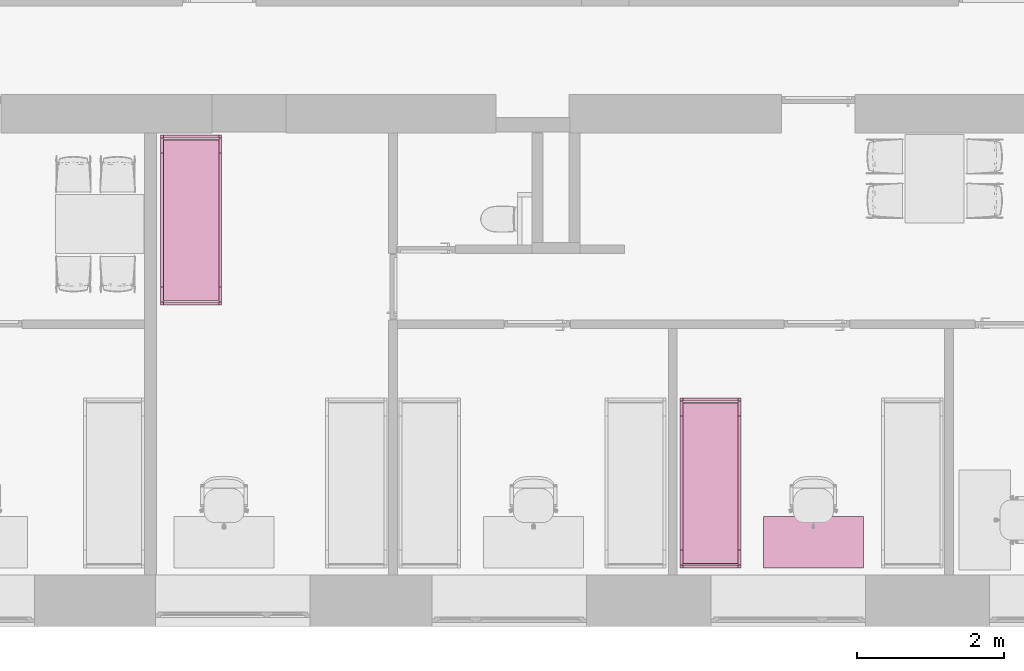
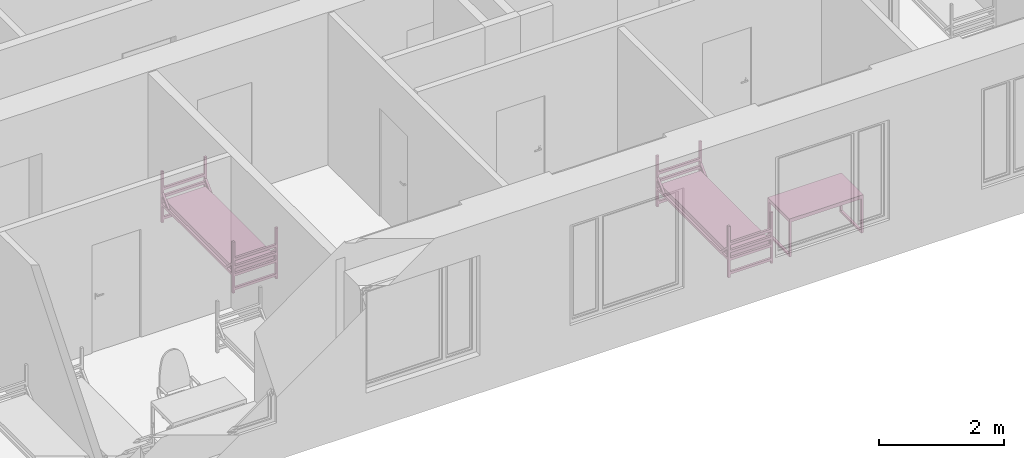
# One storey, part 35 of 48: 3 furnishings.
"""IFC2X3 building model written with IfcOpenShell, lengths in millimetres."""

import ifcopenshell
import ifcopenshell.guid

model = None  # the IFC model being written
_history = None  # IfcOwnerHistory: only IFC2X3 demands one
_inside = {}  # id of a spatial element -> (the spatial element, [elements in it])
_under = {}  # id of a project, library or spatial element -> (it, [spatial elements below it])
_declared = {}  # id of a project -> (the project, [libraries it declares])
_typed = {}  # id of a type object -> (the type object, [elements of that type])
_made_of = {}  # id of a material, layer set ... -> (it, [elements and type objects made of it])


def new_model(schema):
    """Start an empty IFC model of exactly this schema.

    Asked for "IFC4X3", IfcOpenShell would pick the latest addendum, in which some entities
    have other attributes; the version numbers below select the first issue.
    IFC2X3 requires an IfcOwnerHistory on every rooted entity: one is made here for all.
    """
    global model, _history
    if schema == "IFC4X3":
        model = ifcopenshell.file(schema_version=(4, 3, 0, 0))
    else:
        model = ifcopenshell.file(schema=schema)
    _inside.clear()
    _under.clear()
    _declared.clear()
    _typed.clear()
    _made_of.clear()
    _history = None
    if model.schema == "IFC2X3":
        org = make("IfcOrganization", Name="unknown")
        user = make(
            "IfcPersonAndOrganization",
            ThePerson=make("IfcPerson", FamilyName="unknown"),
            TheOrganization=org,
        )
        app = make(
            "IfcApplication",
            ApplicationDeveloper=org,
            Version="unknown",
            ApplicationFullName="unknown",
            ApplicationIdentifier="unknown",
        )
        _history = make(
            "IfcOwnerHistory",
            OwningUser=user,
            OwningApplication=app,
            ChangeAction="ADDED",
            CreationDate=0,
        )
    return model


def make(cls, **values):
    """One entity of the class cls with the attributes given. An attribute that is None is left unset."""
    return model.create_entity(
        cls, **{name: value for name, value in values.items() if value is not None}
    )


def entity(cls, *values):
    """Any entity or typed value of the class cls, its attributes in the order of the schema. None: left unset."""
    e = model.create_entity(cls)
    for i, value in enumerate(values):
        if value is not None:
            e[i] = value
    return e


def rooted(cls, **values):
    """An entity with a GlobalId (a new one), such as an element, a storey or a relation."""
    return make(cls, GlobalId=ifcopenshell.guid.new(), OwnerHistory=_history, **values)


def si_unit(unit_type, name, prefix=None):
    """IfcSIUnit, for example si_unit("LENGTHUNIT", "METRE", prefix="MILLI")."""
    return make("IfcSIUnit", UnitType=unit_type, Prefix=prefix, Name=name)


def converted_unit(unit_type, name, factor, base, dimensions=None, offset=None):
    """IfcConversionBasedUnit, such as the inch: factor (a typed value) times the base unit."""
    return make(
        "IfcConversionBasedUnit"
        if offset is None
        else "IfcConversionBasedUnitWithOffset",
        ConversionOffset=offset,
        Dimensions=None
        if dimensions is None
        else entity("IfcDimensionalExponents", *dimensions),
        UnitType=unit_type,
        Name=name,
        ConversionFactor=make(
            "IfcMeasureWithUnit", ValueComponent=factor, UnitComponent=base
        ),
    )


def derived_unit(unit_type, elements):
    """IfcDerivedUnit: a product of units, each with its exponent."""
    return make(
        "IfcDerivedUnit",
        Elements=[
            make("IfcDerivedUnitElement", Unit=unit, Exponent=power)
            for unit, power in elements
        ],
        UnitType=unit_type,
    )


def assignment(units):
    """IfcUnitAssignment: the units of a project."""
    return None if units is None else make("IfcUnitAssignment", Units=units)


def point(xyz):
    """IfcCartesianPoint."""
    return None if xyz is None else make("IfcCartesianPoint", Coordinates=xyz)


def direction(xyz):
    """IfcDirection."""
    return None if xyz is None else make("IfcDirection", DirectionRatios=xyz)


def frame(location, z_axis=None, x_axis=None):
    """IfcAxis2Placement3D, a coordinate frame: its origin and axes. An axis left out is left unset."""
    return make(
        "IfcAxis2Placement3D",
        Location=point(location),
        Axis=direction(z_axis),
        RefDirection=direction(x_axis),
    )


def frame_2d(location, x_axis=None):
    """IfcAxis2Placement2D, a coordinate frame in the plane: its origin and x axis."""
    return make(
        "IfcAxis2Placement2D", Location=point(location), RefDirection=direction(x_axis)
    )


def origin():
    """The frame at (0, 0, 0) with its axes left unset."""
    return frame((0.0, 0.0, 0.0))


def place(relative_to, where):
    """IfcLocalPlacement: puts the frame where relative to a parent placement (None: the world)."""
    return make(
        "IfcLocalPlacement", PlacementRelTo=relative_to, RelativePlacement=where
    )


def context(
    kind, dimensions, precision=None, world=None, true_north=None, identifier=None
):
    """IfcGeometricRepresentationContext, for example the 3D "Model" context."""
    return make(
        "IfcGeometricRepresentationContext",
        ContextIdentifier=identifier,
        ContextType=kind,
        CoordinateSpaceDimension=dimensions,
        Precision=precision,
        WorldCoordinateSystem=world,
        TrueNorth=true_north,
    )


def subcontext(parent, identifier, kind, view, scale=None):
    """IfcGeometricRepresentationSubContext, for example "Body" below "Model"."""
    return make(
        "IfcGeometricRepresentationSubContext",
        ContextIdentifier=identifier,
        ContextType=kind,
        ParentContext=parent,
        TargetScale=scale,
        TargetView=view,
    )


def project(units=None, contexts=None):
    """IfcProject with its units and contexts."""
    return rooted(
        "IfcProject",
        Name="project",
        RepresentationContexts=contexts,
        UnitsInContext=assignment(units),
    )


def spatial(cls, under=None, at=None, **own):
    """A site, building, storey or space (cls), placed at a placement, below another one or the project."""
    s = rooted(cls, ObjectPlacement=at, **own)
    if under is not None:
        _under.setdefault(under.id(), (under, []))[1].append(s)
    return s


def polyline(points):
    """IfcPolyline through the points."""
    return make("IfcPolyline", Points=[point(p) for p in points])


def circle_curve(where, radius):
    """IfcCircle in the frame where."""
    return make("IfcCircle", Position=where, Radius=radius)


def parameter(value):
    """IfcParameterValue: where a trimmed curve begins or ends, as a parameter of its basis curve."""
    return model.create_entity("IfcParameterValue", value)


def trimmed(basis, trim1, trim2, sense, master):
    """IfcTrimmedCurve: the piece of a basis curve between two trims."""
    return make(
        "IfcTrimmedCurve",
        BasisCurve=basis,
        Trim1=trim1,
        Trim2=trim2,
        SenseAgreement=sense,
        MasterRepresentation=master,
    )


def segment(curve, same_sense, transition):
    """IfcCompositeCurveSegment."""
    return make(
        "IfcCompositeCurveSegment",
        Transition=transition,
        SameSense=same_sense,
        ParentCurve=curve,
    )


def composite_curve(segments, self_intersect=None):
    """IfcCompositeCurve: segments joined end to end."""
    return make("IfcCompositeCurve", Segments=segments, SelfIntersect=self_intersect)


def profile(cls, at=None, kind="AREA", **sizes):
    """A parametric profile (cls). Its sizes go by their IFC names, for example OverallWidth=200.0."""
    return make(cls, ProfileType=kind, Position=at, **sizes)


def rectangle(**sizes):
    """IfcRectangleProfileDef."""
    return profile("IfcRectangleProfileDef", **sizes)


def outline(outer, holes=None, kind="AREA"):
    """IfcArbitraryClosedProfileDef: a profile drawn as a closed curve; with holes, ...WithVoids."""
    if holes is None:
        return make("IfcArbitraryClosedProfileDef", ProfileType=kind, OuterCurve=outer)
    return make(
        "IfcArbitraryProfileDefWithVoids",
        ProfileType=kind,
        OuterCurve=outer,
        InnerCurves=holes,
    )


def extrude(swept, where, along, depth):
    """IfcExtrudedAreaSolid: the profile swept, set in the frame where, extruded along a direction by depth."""
    return make(
        "IfcExtrudedAreaSolid",
        SweptArea=swept,
        Position=where,
        ExtrudedDirection=direction(along),
        Depth=depth,
    )


def faces_of(points, faces, orient=None, outer=None):
    """IfcFace entities. A face is a list of loops; a loop is a list of indices into points, from 0.

    orient and outer hold one flag for each loop. By default every Orientation is true, the
    first loop of a face is its IfcFaceOuterBound and the others are IfcFaceBound.
    """
    made = []
    for i, loops in enumerate(faces):
        bounds = []
        for j, loop in enumerate(loops):
            is_outer = j == 0 if outer is None else outer[i][j]
            bounds.append(
                make(
                    "IfcFaceOuterBound" if is_outer else "IfcFaceBound",
                    Bound=make("IfcPolyLoop", Polygon=[points[k] for k in loop]),
                    Orientation=True if orient is None else orient[i][j],
                )
            )
        made.append(make("IfcFace", Bounds=bounds))
    return made


def faceted_brep(points, faces, orient=None, outer=None, voids=None):
    """IfcFacetedBrep: a solid bounded by flat faces; with voids (closed shells), ...WithVoids."""
    shared = [point(p) for p in points]
    hull = make("IfcClosedShell", CfsFaces=faces_of(shared, faces, orient, outer))
    if voids is None:
        return make("IfcFacetedBrep", Outer=hull)
    return make(
        "IfcFacetedBrepWithVoids",
        Outer=hull,
        Voids=[
            make(cls, CfsFaces=faces_of(shared, fs, o, b)) for cls, fs, o, b in voids
        ],
    )


def shape(context_of_items, identifier, shape_type, items):
    """IfcShapeRepresentation: the items that make up one representation, for example the "Body"."""
    return make(
        "IfcShapeRepresentation",
        ContextOfItems=context_of_items,
        RepresentationIdentifier=identifier,
        RepresentationType=shape_type,
        Items=items,
    )


def source(mapping_origin, context_of_items, identifier, shape_type, items):
    """IfcRepresentationMap: a shape defined once, which mapped items show again and again."""
    return make(
        "IfcRepresentationMap",
        MappingOrigin=mapping_origin,
        MappedRepresentation=shape(context_of_items, identifier, shape_type, items),
    )


def transform(
    local_origin,
    x_axis=None,
    y_axis=None,
    z_axis=None,
    scale=None,
    scale2=None,
    scale3=None,
    uniform=True,
):
    """IfcCartesianTransformationOperator3D, or its non-uniform kind. x_axis, y_axis, z_axis: its Axis1, 2, 3."""
    if uniform:
        return make(
            "IfcCartesianTransformationOperator3D",
            Axis1=direction(x_axis),
            Axis2=direction(y_axis),
            LocalOrigin=point(local_origin),
            Scale=scale,
            Axis3=direction(z_axis),
        )
    return make(
        "IfcCartesianTransformationOperator3DnonUniform",
        Axis1=direction(x_axis),
        Axis2=direction(y_axis),
        LocalOrigin=point(local_origin),
        Scale=scale,
        Axis3=direction(z_axis),
        Scale2=scale2,
        Scale3=scale3,
    )


def mapped(mapping_source, mapping_target):
    """IfcMappedItem: shows the shape of a source again, moved by a transform."""
    return make(
        "IfcMappedItem", MappingSource=mapping_source, MappingTarget=mapping_target
    )


def material(Name=None, Category=None):
    """IfcMaterial."""
    return make("IfcMaterial", Name=Name, Category=Category)


def material_list(materials):
    """IfcMaterialList."""
    return make("IfcMaterialList", Materials=materials)


def made_of(thing, what):
    """Note that an element or type object is made of a material, layer set ...; save() writes the relation."""
    if what is not None:
        _made_of.setdefault(what.id(), (what, []))[1].append(thing)
    return thing


def type_object(cls, material=None, **own):
    """A type object (cls), such as IfcWallType, which elements share."""
    return made_of(rooted(cls, **own), material)


def type_shapes(of_type, sources):
    """Give a type object the sources (RepresentationMaps) that its elements show as mapped items."""
    of_type.RepresentationMaps = sources


def element(
    cls,
    number,
    at=None,
    inside=None,
    cuts=None,
    type_object=None,
    material=None,
    context=None,
    identifier="Body",
    shape_type=None,
    held_by="IfcProductDefinitionShape",
    body=None,
    shapes=None,
    **own,
):
    """One element of the class cls, such as IfcWall. Its Tag is "e" and its number.

    at: its placement. inside: the storey or other place that contains it. cuts: it is an
    opening in that element (IfcRelVoidsElement). A single representation is given by context,
    identifier, shape_type and body (its items); several are given by shapes. held_by: the class
    of the entity that holds the representations. save() writes the other relations.
    """
    e = rooted(cls, Tag="e%d" % number, ObjectPlacement=at, **own)
    if body is not None:
        shapes = [shape(context, identifier, shape_type, body)]
    if shapes is not None:
        e.Representation = make(held_by, Representations=shapes)
    if inside is not None:
        _inside.setdefault(inside.id(), (inside, []))[1].append(e)
    if cuts is not None:
        rooted(
            "IfcRelVoidsElement", RelatingBuildingElement=cuts, RelatedOpeningElement=e
        )
    if type_object is not None:
        _typed.setdefault(type_object.id(), (type_object, []))[1].append(e)
    return made_of(e, material)


def aggregate(whole, parts):
    """IfcRelAggregates: a whole, such as a stair, and the parts it consists of."""
    return rooted("IfcRelAggregates", RelatingObject=whole, RelatedObjects=parts)


def save(model, path):
    """Write the relations noted so far, then the file.

    IfcRelAggregates (storeys below a building ...), IfcRelContainedInSpatialStructure (elements
    in a storey), IfcRelDefinesByType, IfcRelAssociatesMaterial and IfcRelDeclares: one each for
    every whole, place, type object, material and project.
    """
    for whole, parts in _under.values():
        aggregate(whole, parts)
    for where, things in _inside.values():
        rooted(
            "IfcRelContainedInSpatialStructure",
            RelatedElements=things,
            RelatingStructure=where,
        )
    for kind, things in _typed.values():
        rooted("IfcRelDefinesByType", RelatedObjects=things, RelatingType=kind)
    for what, things in _made_of.values():
        rooted("IfcRelAssociatesMaterial", RelatedObjects=things, RelatingMaterial=what)
    for by, libraries in _declared.values():
        rooted("IfcRelDeclares", RelatingContext=by, RelatedDefinitions=libraries)
    model.write(path)


model = new_model("IFC2X3")

# Units and contexts
model_context = context("Model", 3, precision=0.01, world=origin(), true_north=direction((6.12303176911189e-17, 1.0)))
body_context = subcontext(model_context, "Body", "Model", "MODEL_VIEW")
ifc_project = project(units=[si_unit("LENGTHUNIT", "METRE", prefix="MILLI"), si_unit("AREAUNIT", "SQUARE_METRE"), si_unit("VOLUMEUNIT", "CUBIC_METRE"), converted_unit("PLANEANGLEUNIT", "DEGREE", entity("IfcRatioMeasure", 0.0174532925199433), si_unit("PLANEANGLEUNIT", "RADIAN"), dimensions=[0, 0, 0, 0, 0, 0, 0]), si_unit("MASSUNIT", "GRAM", prefix="KILO"), derived_unit("MASSDENSITYUNIT", [(si_unit("MASSUNIT", "GRAM", prefix="KILO"), 1), (si_unit("LENGTHUNIT", "METRE"), -3)]), si_unit("TIMEUNIT", "SECOND"), si_unit("FREQUENCYUNIT", "HERTZ"), si_unit("THERMODYNAMICTEMPERATUREUNIT", "DEGREE_CELSIUS"), derived_unit("THERMALTRANSMITTANCEUNIT", [(si_unit("MASSUNIT", "GRAM", prefix="KILO"), 1), (si_unit("THERMODYNAMICTEMPERATUREUNIT", "KELVIN"), -1), (si_unit("TIMEUNIT", "SECOND"), -3)]), derived_unit("VOLUMETRICFLOWRATEUNIT", [(si_unit("LENGTHUNIT", "METRE"), 3), (si_unit("TIMEUNIT", "SECOND"), -1)]), si_unit("ELECTRICCURRENTUNIT", "AMPERE"), si_unit("ELECTRICVOLTAGEUNIT", "VOLT"), si_unit("POWERUNIT", "WATT"), si_unit("FORCEUNIT", "NEWTON", prefix="KILO"), si_unit("ILLUMINANCEUNIT", "LUX"), si_unit("LUMINOUSFLUXUNIT", "LUMEN"), si_unit("LUMINOUSINTENSITYUNIT", "CANDELA"), derived_unit("USERDEFINED", [(si_unit("MASSUNIT", "GRAM", prefix="KILO"), -1), (si_unit("LENGTHUNIT", "METRE"), -2), (si_unit("TIMEUNIT", "SECOND"), 3), (si_unit("LUMINOUSFLUXUNIT", "LUMEN"), 1)]), derived_unit("LINEARVELOCITYUNIT", [(si_unit("LENGTHUNIT", "METRE"), 1), (si_unit("TIMEUNIT", "SECOND"), -1)]), si_unit("PRESSUREUNIT", "PASCAL"), derived_unit("USERDEFINED", [(si_unit("LENGTHUNIT", "METRE"), -2), (si_unit("MASSUNIT", "GRAM", prefix="KILO"), 1), (si_unit("TIMEUNIT", "SECOND"), -2)]), derived_unit("LINEARFORCEUNIT", [(si_unit("MASSUNIT", "GRAM", prefix="KILO"), 1), (si_unit("LENGTHUNIT", "METRE"), 1), (si_unit("TIMEUNIT", "SECOND"), -2), (si_unit("LENGTHUNIT", "METRE"), -1)]), derived_unit("PLANARFORCEUNIT", [(si_unit("MASSUNIT", "GRAM", prefix="KILO"), 1), (si_unit("LENGTHUNIT", "METRE"), 1), (si_unit("TIMEUNIT", "SECOND"), -2), (si_unit("LENGTHUNIT", "METRE"), -2)])], contexts=[model_context])

# Site, building, storey, space
site_placement = place(None, origin())
site = spatial("IfcSite", under=ifc_project, at=site_placement, Name="Default", CompositionType="ELEMENT")
building_placement = place(site_placement, origin())
building = spatial("IfcBuilding", under=site, at=building_placement, Name="SMA ARH", CompositionType="ELEMENT")
storey_placement = place(building_placement, frame((0.0, 0.0, 3300.0)))
storey = spatial("IfcBuildingStorey", under=building, at=storey_placement, Name="2 Korrus", CompositionType="ELEMENT", Elevation=3299.99999999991)
space_1_placement = place(storey_placement, origin())
space_1 = spatial("IfcSpace", under=storey, at=space_1_placement, Name="2-7", CompositionType="ELEMENT", InteriorOrExteriorSpace="INTERNAL")

# Furnishing
ifc_material_1 = material(Name="Madrats")
furniture_type_1 = type_object("IfcFurnitureType", Name="Kasarmu voodi ühekordne 2308x830:Kasarmu voodi ühekordne 2308x830", material=ifc_material_1)
shared_shape_1 = source(origin(), body_context, "Body", "SweptSolid", [
    extrude(rectangle(XDim=39.9999999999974, YDim=750.000000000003, at=frame_2d((-1.35003119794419e-13, -2.8421709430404e-14), x_axis=(1.0, 0.0))), frame((1.68638457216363, -1226.7969571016, 55.0), z_axis=(0.0, 0.0, 1.0), x_axis=(0.0, -1.0, 0.0)), (0.0, 0.0, 1.0), 49.9999999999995),
    extrude(rectangle(XDim=39.9999999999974, YDim=750.000000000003, at=frame_2d((-1.35003119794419e-13, -2.8421709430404e-14), x_axis=(1.0, 0.0))), frame((1.68638457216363, -1226.7969571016, 325.0), z_axis=(0.0, 0.0, 1.0), x_axis=(0.0, -1.0, 0.0)), (0.0, 0.0, 1.0), 49.9999999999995),
    extrude(rectangle(XDim=39.9999999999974, YDim=750.000000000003, at=frame_2d((-1.35003119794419e-13, -2.8421709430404e-14), x_axis=(1.0, 0.0))), frame((1.68638457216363, -1226.7969571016, 475.0), z_axis=(0.0, 0.0, 1.0), x_axis=(0.0, -1.0, 0.0)), (0.0, 0.0, 1.0), 49.9999999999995),
    extrude(rectangle(XDim=39.9999999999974, YDim=750.000000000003, at=frame_2d((-1.35003119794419e-13, -2.8421709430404e-14), x_axis=(1.0, 0.0))), frame((1.68638457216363, -1226.7969571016, 625.0), z_axis=(0.0, 0.0, 1.0), x_axis=(0.0, -1.0, 0.0)), (0.0, 0.0, 1.0), 50.0000000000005),
    extrude(rectangle(XDim=39.9999999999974, YDim=750.000000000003, at=frame_2d((1.35003119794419e-13, -2.8421709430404e-14), x_axis=(1.0, 0.0))), frame((1.68638457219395, 1041.2030428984, 55.0), z_axis=(0.0, 0.0, 1.0), x_axis=(0.0, -1.0, 0.0)), (0.0, 0.0, 1.0), 50.0000000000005),
    extrude(rectangle(XDim=39.9999999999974, YDim=750.000000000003, at=frame_2d((1.35003119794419e-13, -2.8421709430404e-14), x_axis=(1.0, 0.0))), frame((1.68638457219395, 1041.2030428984, 325.0), z_axis=(0.0, 0.0, 1.0), x_axis=(0.0, -1.0, 0.0)), (0.0, 0.0, 1.0), 50.0000000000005),
    extrude(rectangle(XDim=39.9999999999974, YDim=750.000000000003, at=frame_2d((1.35003119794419e-13, -2.8421709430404e-14), x_axis=(1.0, 0.0))), frame((1.68638457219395, 1041.2030428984, 475.0), z_axis=(0.0, 0.0, 1.0), x_axis=(0.0, -1.0, 0.0)), (0.0, 0.0, 1.0), 50.0000000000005),
    extrude(rectangle(XDim=39.9999999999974, YDim=750.000000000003, at=frame_2d((1.35003119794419e-13, -2.8421709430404e-14), x_axis=(1.0, 0.0))), frame((1.68638457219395, 1041.2030428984, 625.0), z_axis=(0.0, 0.0, 1.0), x_axis=(0.0, -1.0, 0.0)), (0.0, 0.0, 1.0), 49.9999999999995),
    extrude(outline(composite_curve([segment(trimmed(circle_curve(frame_2d((1085.0, -40.0), x_axis=(1.0, 0.0)), 10.0), [parameter(270.0)], [parameter(0.0)], True, "PARAMETER"), True, "CONTINUOUS"), segment(polyline([(1095.0, -40.0), (1095.0, 40.0)]), True, "CONTINUOUS"), segment(trimmed(circle_curve(frame_2d((1085.0, 40.0), x_axis=(1.0, 0.0)), 10.0), [parameter(0.0)], [parameter(90.0000000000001)], True, "PARAMETER"), True, "CONTINUOUS"), segment(polyline([(1085.0, 50.0), (-1085.0, 50.0)]), True, "CONTINUOUS"), segment(trimmed(circle_curve(frame_2d((-1085.0, 40.0), x_axis=(1.0, 0.0)), 10.0), [parameter(90.0000000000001)], [parameter(180.0)], True, "PARAMETER"), True, "CONTINUOUS"), segment(polyline([(-1095.0, 40.0), (-1095.0, -40.0)]), True, "CONTINUOUS"), segment(trimmed(circle_curve(frame_2d((-1085.0, -40.0), x_axis=(1.0, 0.0)), 10.0), [parameter(180.0)], [parameter(270.0)], True, "PARAMETER"), True, "CONTINUOUS"), segment(polyline([(-1085.0, -50.0), (1085.0, -50.0)]), True, "CONTINUOUS")], self_intersect=False)), frame((-373.313615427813, -92.7969571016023, 405.0), z_axis=(1.0, 0.0, 0.0), x_axis=(0.0, -1.0, 0.0)), (0.0, 0.0, 1.0), 750.000000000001),
    extrude(outline(polyline([(-1114.0, -100.0), (1114.0, -100.0), (1114.0, -50.0), (961.59199141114, -50.0), (1114.0, 100.0), (1114.0, 150.0), (910.789321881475, -50.0), (-910.789321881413, -50.0), (-1114.0, 150.0), (-1114.0, 100.0), (-961.591991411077, -50.0), (-1114.0, -50.0), (-1114.0, -100.0)])), frame((-413.313615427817, -92.7969571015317, 430.0), z_axis=(1.0, 0.0, 0.0), x_axis=(0.0, 1.0, 0.0)), (0.0, 0.0, 1.0), 39.9999999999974),
    extrude(outline(polyline([(-1114.0, -100.0), (1114.0, -100.0), (1114.0, -50.0), (961.591991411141, -50.0), (1114.0, 100.0), (1114.0, 150.0), (910.789321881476, -50.0), (-910.789321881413, -50.0), (-1114.0, 150.0), (-1114.0, 100.0), (-961.591991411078, -50.0), (-1114.0, -50.0), (-1114.0, -100.0)])), frame((376.686384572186, -92.796957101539, 430.0), z_axis=(1.0, 0.0, 0.0), x_axis=(0.0, 1.0, 0.0)), (0.0, 0.0, 1.0), 39.9999999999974),
    extrude(rectangle(XDim=39.9999999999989, YDim=39.9999999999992, at=frame_2d((-6.75015598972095e-14, 0.0), x_axis=(1.0, 0.0))), frame((396.686384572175, -1226.79695710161, 0.0), z_axis=(0.0, 0.0, 1.0), x_axis=(0.0, 1.0, 0.0)), (0.0, 0.0, 1.0), 995.0),
    extrude(rectangle(XDim=39.9999999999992, YDim=39.9999999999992, at=frame_2d((-1.35003119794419e-13, 0.0), x_axis=(1.0, 0.0))), frame((396.686384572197, 1041.20304289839, 0.0), z_axis=(0.0, 0.0, 1.0), x_axis=(0.0, 1.0, 0.0)), (0.0, 0.0, 1.0), 995.0),
    extrude(rectangle(XDim=40.0000000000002, YDim=39.9999999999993, at=frame_2d((-1.35003119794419e-13, 0.0), x_axis=(1.0, 0.0))), frame((-393.313615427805, 1041.2030428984, 0.0), z_axis=(0.0, 0.0, 1.0), x_axis=(0.0, 1.0, 0.0)), (0.0, 0.0, 1.0), 995.0),
    extrude(rectangle(XDim=39.9999999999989, YDim=39.9999999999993, at=frame_2d((-6.75015598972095e-14, 0.0), x_axis=(1.0, 0.0))), frame((-393.313615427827, -1226.7969571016, 0.0), z_axis=(0.0, 0.0, 1.0), x_axis=(0.0, 1.0, 0.0)), (0.0, 0.0, 1.0), 995.0),
])
type_shapes(furniture_type_1, [shared_shape_1])
furnishing_1_placement = place(space_1_placement, frame((23839.3136154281, 1336.79695710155, 0.0)))
element("IfcFurnishingElement", 1, at=furnishing_1_placement, inside=space_1, type_object=furniture_type_1, material=ifc_material_1, Name="Kasarmu voodi ühekordne 2308x830:Kasarmu voodi ühekordne 2308x830", ObjectType="Kasarmu voodi ühekordne 2308x830:Kasarmu voodi ühekordne 2308x830", context=body_context, shape_type="MappedRepresentation", body=[
    mapped(shared_shape_1, transform((0.0, 0.0, 0.0), scale=1.0)),
])

# Space
space_2_placement = place(storey_placement, origin())
space_2 = spatial("IfcSpace", under=storey, at=space_2_placement, Name="2-9", CompositionType="ELEMENT", InteriorOrExteriorSpace="INTERNAL")

# Furnishings
furnishing_2_placement = place(space_2_placement, frame((16791.1863845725, 4723.20304289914, 0.0), z_axis=(0.0, 0.0, 1.0), x_axis=(-1.0, 0.0, 0.0)))
element("IfcFurnishingElement", 2, at=furnishing_2_placement, inside=space_2, type_object=furniture_type_1, material=ifc_material_1, Name="Kasarmu voodi ühekordne 2308x830:Kasarmu voodi ühekordne 2308x830", ObjectType="Kasarmu voodi ühekordne 2308x830:Kasarmu voodi ühekordne 2308x830", context=body_context, shape_type="MappedRepresentation", body=[
    mapped(shared_shape_1, transform((0.0, 0.0, 0.0), scale=1.0)),
])
ifc_material_2 = material(Name="<Unnamed>")
ifc_material_list = material_list([ifc_material_2, ifc_material_2])
furniture_type_2 = type_object("IfcFurnitureType", Name="kirjutuslaud 1360x700mm:kirjutuslaud 1360x700mm", material=ifc_material_list)
shared_shape_2 = source(origin(), body_context, "Body", "Brep", [
    faceted_brep([(680.0, -350.0, 720.0), (680.0, 350.0, 720.0), (680.0, 350.0, 750.0), (680.0, -350.0, 750.0), (-680.0, -350.0, 720.0), (-680.0, -350.0, 750.0), (-680.0, 350.0, 750.0), (-680.0, 350.0, 720.0)], [[[0, 1, 2, 3]], [[4, 5, 6, 7]], [[1, 0, 4, 7]], [[2, 1, 7, 6]], [[3, 2, 6, 5]], [[0, 3, 5, 4]]]),
    faceted_brep([(-640.0, -310.0, 680.0), (-640.0, 310.0, 680.0), (-640.0, 310.0, 720.0), (-640.0, -310.0, 720.0), (-680.0, -350.0, 720.0), (-680.0, 350.0, 720.0), (-680.0, 350.0, 10.0), (-680.0, -350.0, 10.0), (-680.0, 310.0, 680.0), (-680.0, -310.0, 680.0), (-680.0, -310.0, 50.0), (-680.0, 310.0, 50.0), (-640.0, -350.0, 10.0), (-640.0, -350.0, 680.0), (640.0, -350.0, 680.0), (640.0, -350.0, 10.0), (680.0, -350.0, 10.0), (680.0, -350.0, 720.0), (-640.0, 350.0, 10.0), (680.0, 350.0, 720.0), (680.0, 350.0, 10.0), (640.0, 350.0, 10.0), (640.0, 350.0, 680.0), (-640.0, 350.0, 680.0), (640.0, 310.0, 720.0), (640.0, -310.0, 720.0), (-640.0, 310.0, 50.0), (-640.0, -310.0, 50.0), (640.0, -310.0, 680.0), (640.0, 310.0, 680.0), (680.0, 310.0, 680.0), (680.0, 310.0, 50.0), (680.0, -310.0, 50.0), (680.0, -310.0, 680.0), (640.0, -310.0, 50.0), (640.0, 310.0, 50.0)], [[[0, 1, 2, 3]], [[4, 5, 6, 7], [8, 9, 10, 11]], [[4, 7, 12, 13, 14, 15, 16, 17]], [[18, 12, 7, 6]], [[6, 5, 19, 20, 21, 22, 23, 18]], [[19, 5, 4, 17], [2, 24, 25, 3]], [[26, 1, 8, 11]], [[27, 26, 11, 10]], [[0, 27, 10, 9]], [[1, 0, 9, 8]], [[14, 13, 0, 28]], [[24, 2, 1, 29]], [[3, 25, 28, 0]], [[17, 16, 20, 19], [30, 31, 32, 33]], [[21, 15, 14, 28, 34, 35, 29, 22]], [[20, 16, 15, 21]], [[31, 30, 29, 35]], [[32, 31, 35, 34]], [[33, 32, 34, 28]], [[30, 33, 28, 29]], [[29, 28, 25, 24]], [[29, 1, 23, 22]], [[12, 18, 23, 1, 26, 27, 0, 13]]]),
    faceted_brep([(-663.729456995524, -270.466136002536, 0.0), (-659.847171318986, -269.955023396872, 0.0), (-655.964885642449, -270.466136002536, 0.0), (-652.347171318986, -271.964642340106, 0.0), (-649.240569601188, -274.348421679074, 0.0), (-646.85679026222, -277.455023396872, 0.0), (-645.35828392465, -281.072737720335, 0.0), (-644.847171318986, -284.955023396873, 0.0), (-645.35828392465, -288.83730907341, 0.0), (-646.85679026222, -292.455023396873, 0.0), (-649.240569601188, -295.561625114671, 0.0), (-652.347171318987, -297.945404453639, 0.0), (-655.964885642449, -299.443910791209, 0.0), (-659.847171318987, -299.955023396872, 0.0), (-663.729456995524, -299.443910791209, 0.0), (-667.347171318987, -297.945404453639, 0.0), (-670.453773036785, -295.561625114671, 0.0), (-672.837552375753, -292.455023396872, 0.0), (-674.336058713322, -288.83730907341, 0.0), (-674.847171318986, -284.955023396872, 0.0), (-674.336058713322, -281.072737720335, 0.0), (-672.837552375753, -277.455023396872, 0.0), (-670.453773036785, -274.348421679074, 0.0), (-667.347171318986, -271.964642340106, 0.0), (-655.964885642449, -299.443910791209, 10.0), (-652.347171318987, -297.945404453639, 10.0), (-649.240569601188, -295.561625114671, 10.0), (-646.85679026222, -292.455023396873, 10.0), (-645.35828392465, -288.83730907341, 10.0), (-644.847171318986, -284.955023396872, 10.0), (-645.35828392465, -281.072737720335, 10.0), (-646.85679026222, -277.455023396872, 10.0), (-649.240569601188, -274.348421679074, 10.0), (-652.347171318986, -271.964642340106, 10.0), (-655.964885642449, -270.466136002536, 10.0), (-659.847171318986, -269.955023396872, 10.0), (-663.729456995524, -270.466136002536, 10.0), (-667.347171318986, -271.964642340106, 10.0), (-670.453773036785, -274.348421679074, 10.0), (-672.837552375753, -277.455023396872, 10.0), (-674.336058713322, -281.072737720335, 10.0), (-674.847171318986, -284.955023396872, 10.0), (-674.336058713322, -288.83730907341, 10.0), (-672.837552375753, -292.455023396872, 10.0), (-670.453773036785, -295.561625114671, 10.0), (-667.347171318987, -297.945404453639, 10.0), (-663.729456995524, -299.443910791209, 10.0), (-659.847171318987, -299.955023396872, 10.0)], [[[0, 1, 2, 3, 4, 5, 6, 7, 8, 9, 10, 11, 12, 13, 14, 15, 16, 17, 18, 19, 20, 21, 22, 23]], [[24, 25, 26, 27, 28, 29, 30, 31, 32, 33, 34, 35, 36, 37, 38, 39, 40, 41, 42, 43, 44, 45, 46, 47]], [[18, 42, 41, 19]], [[17, 43, 42, 18]], [[45, 44, 16, 15]], [[17, 16, 44, 43]], [[46, 45, 15, 14]], [[47, 46, 14, 13]], [[12, 24, 47, 13]], [[11, 25, 24, 12]], [[27, 26, 10, 9]], [[11, 10, 26, 25]], [[28, 27, 9, 8]], [[29, 28, 8, 7]], [[6, 30, 29, 7]], [[5, 31, 30, 6]], [[33, 32, 4, 3]], [[5, 4, 32, 31]], [[34, 33, 3, 2]], [[35, 34, 2, 1]], [[0, 36, 35, 1]], [[23, 37, 36, 0]], [[39, 38, 22, 21]], [[23, 22, 38, 37]], [[40, 39, 21, 20]], [[41, 40, 20, 19]]]),
    faceted_brep([(-655.964885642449, 270.466136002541, 10.0), (-652.347171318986, 271.964642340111, 10.0), (-649.240569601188, 274.348421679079, 10.0), (-646.85679026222, 277.455023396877, 10.0), (-645.35828392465, 281.07273772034, 10.0), (-644.847171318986, 284.955023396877, 10.0), (-645.35828392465, 288.837309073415, 10.0), (-646.85679026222, 292.455023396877, 10.0), (-649.240569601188, 295.561625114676, 10.0), (-652.347171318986, 297.945404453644, 10.0), (-655.964885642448, 299.443910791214, 10.0), (-659.847171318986, 299.955023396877, 10.0), (-663.729456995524, 299.443910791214, 10.0), (-667.347171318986, 297.945404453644, 10.0), (-670.453773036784, 295.561625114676, 10.0), (-672.837552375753, 292.455023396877, 10.0), (-674.336058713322, 288.837309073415, 10.0), (-674.847171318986, 284.955023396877, 10.0), (-674.336058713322, 281.07273772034, 10.0), (-672.837552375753, 277.455023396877, 10.0), (-670.453773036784, 274.348421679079, 10.0), (-667.347171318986, 271.964642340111, 10.0), (-663.729456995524, 270.466136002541, 10.0), (-659.847171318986, 269.955023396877, 10.0), (-655.964885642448, 299.443910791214, 0.0), (-652.347171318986, 297.945404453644, 0.0), (-649.240569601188, 295.561625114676, 0.0), (-646.85679026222, 292.455023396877, 0.0), (-645.35828392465, 288.837309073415, 0.0), (-644.847171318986, 284.955023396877, 0.0), (-645.35828392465, 281.07273772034, 0.0), (-646.85679026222, 277.455023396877, 0.0), (-649.240569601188, 274.348421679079, 0.0), (-652.347171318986, 271.964642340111, 0.0), (-655.964885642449, 270.466136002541, 0.0), (-659.847171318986, 269.955023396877, 0.0), (-663.729456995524, 270.466136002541, 0.0), (-667.347171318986, 271.964642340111, 0.0), (-670.453773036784, 274.348421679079, 0.0), (-672.837552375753, 277.455023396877, 0.0), (-674.336058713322, 281.07273772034, 0.0), (-674.847171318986, 284.955023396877, 0.0), (-674.336058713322, 288.837309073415, 0.0), (-672.837552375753, 292.455023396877, 0.0), (-670.453773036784, 295.561625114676, 0.0), (-667.347171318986, 297.945404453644, 0.0), (-663.729456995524, 299.443910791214, 0.0), (-659.847171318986, 299.955023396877, 0.0)], [[[0, 1, 2, 3, 4, 5, 6, 7, 8, 9, 10, 11, 12, 13, 14, 15, 16, 17, 18, 19, 20, 21, 22, 23]], [[24, 25, 26, 27, 28, 29, 30, 31, 32, 33, 34, 35, 36, 37, 38, 39, 40, 41, 42, 43, 44, 45, 46, 47]], [[40, 18, 17, 41]], [[39, 19, 18, 40]], [[21, 20, 38, 37]], [[39, 38, 20, 19]], [[22, 21, 37, 36]], [[23, 22, 36, 35]], [[34, 0, 23, 35]], [[33, 1, 0, 34]], [[3, 2, 32, 31]], [[33, 32, 2, 1]], [[4, 3, 31, 30]], [[5, 4, 30, 29]], [[28, 6, 5, 29]], [[27, 7, 6, 28]], [[9, 8, 26, 25]], [[27, 26, 8, 7]], [[10, 9, 25, 24]], [[11, 10, 24, 47]], [[46, 12, 11, 47]], [[45, 13, 12, 46]], [[15, 14, 44, 43]], [[45, 44, 14, 13]], [[16, 15, 43, 42]], [[17, 16, 42, 41]]]),
    faceted_brep([(656.270543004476, -270.466136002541, 0.0), (660.152828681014, -269.955023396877, 0.0), (664.035114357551, -270.466136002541, 0.0), (667.652828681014, -271.96464234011, 0.0), (670.759430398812, -274.348421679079, 0.0), (673.14320973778, -277.455023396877, 0.0), (674.64171607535, -281.072737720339, 0.0), (675.152828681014, -284.955023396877, 0.0), (674.64171607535, -288.837309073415, 0.0), (673.14320973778, -292.455023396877, 0.0), (670.759430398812, -295.561625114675, 0.0), (667.652828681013, -297.945404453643, 0.0), (664.035114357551, -299.443910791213, 0.0), (660.152828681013, -299.955023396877, 0.0), (656.270543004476, -299.443910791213, 0.0), (652.652828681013, -297.945404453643, 0.0), (649.546226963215, -295.561625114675, 0.0), (647.162447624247, -292.455023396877, 0.0), (645.663941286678, -288.837309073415, 0.0), (645.152828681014, -284.955023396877, 0.0), (645.663941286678, -281.072737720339, 0.0), (647.162447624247, -277.455023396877, 0.0), (649.546226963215, -274.348421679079, 0.0), (652.652828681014, -271.96464234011, 0.0), (664.035114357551, -299.443910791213, 10.0), (667.652828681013, -297.945404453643, 10.0), (670.759430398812, -295.561625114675, 10.0), (673.14320973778, -292.455023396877, 10.0), (674.64171607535, -288.837309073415, 10.0), (675.152828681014, -284.955023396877, 10.0), (674.64171607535, -281.072737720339, 10.0), (673.14320973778, -277.455023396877, 10.0), (670.759430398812, -274.348421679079, 10.0), (667.652828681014, -271.96464234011, 10.0), (664.035114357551, -270.466136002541, 10.0), (660.152828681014, -269.955023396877, 10.0), (656.270543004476, -270.466136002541, 10.0), (652.652828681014, -271.96464234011, 10.0), (649.546226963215, -274.348421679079, 10.0), (647.162447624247, -277.455023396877, 10.0), (645.663941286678, -281.072737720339, 10.0), (645.152828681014, -284.955023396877, 10.0), (645.663941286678, -288.837309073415, 10.0), (647.162447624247, -292.455023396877, 10.0), (649.546226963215, -295.561625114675, 10.0), (652.652828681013, -297.945404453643, 10.0), (656.270543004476, -299.443910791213, 10.0), (660.152828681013, -299.955023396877, 10.0)], [[[0, 1, 2, 3, 4, 5, 6, 7, 8, 9, 10, 11, 12, 13, 14, 15, 16, 17, 18, 19, 20, 21, 22, 23]], [[24, 25, 26, 27, 28, 29, 30, 31, 32, 33, 34, 35, 36, 37, 38, 39, 40, 41, 42, 43, 44, 45, 46, 47]], [[18, 42, 41, 19]], [[17, 43, 42, 18]], [[45, 44, 16, 15]], [[17, 16, 44, 43]], [[46, 45, 15, 14]], [[47, 46, 14, 13]], [[12, 24, 47, 13]], [[11, 25, 24, 12]], [[27, 26, 10, 9]], [[11, 10, 26, 25]], [[28, 27, 9, 8]], [[29, 28, 8, 7]], [[6, 30, 29, 7]], [[5, 31, 30, 6]], [[33, 32, 4, 3]], [[5, 4, 32, 31]], [[34, 33, 3, 2]], [[35, 34, 2, 1]], [[0, 36, 35, 1]], [[23, 37, 36, 0]], [[39, 38, 22, 21]], [[23, 22, 38, 37]], [[40, 39, 21, 20]], [[41, 40, 20, 19]]]),
    faceted_brep([(664.035114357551, 270.466136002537, 10.0), (667.652828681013, 271.964642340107, 10.0), (670.759430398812, 274.348421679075, 10.0), (673.14320973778, 277.455023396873, 10.0), (674.64171607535, 281.072737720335, 10.0), (675.152828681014, 284.955023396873, 10.0), (674.64171607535, 288.837309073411, 10.0), (673.14320973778, 292.455023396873, 10.0), (670.759430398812, 295.561625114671, 10.0), (667.652828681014, 297.94540445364, 10.0), (664.035114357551, 299.443910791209, 10.0), (660.152828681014, 299.955023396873, 10.0), (656.270543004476, 299.443910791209, 10.0), (652.652828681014, 297.94540445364, 10.0), (649.546226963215, 295.561625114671, 10.0), (647.162447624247, 292.455023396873, 10.0), (645.663941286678, 288.837309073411, 10.0), (645.152828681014, 284.955023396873, 10.0), (645.663941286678, 281.072737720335, 10.0), (647.162447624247, 277.455023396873, 10.0), (649.546226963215, 274.348421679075, 10.0), (652.652828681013, 271.964642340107, 10.0), (656.270543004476, 270.466136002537, 10.0), (660.152828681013, 269.955023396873, 10.0), (664.035114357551, 299.443910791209, 0.0), (667.652828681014, 297.94540445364, 0.0), (670.759430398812, 295.561625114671, 0.0), (673.14320973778, 292.455023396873, 0.0), (674.64171607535, 288.837309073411, 0.0), (675.152828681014, 284.955023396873, 0.0), (674.64171607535, 281.072737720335, 0.0), (673.14320973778, 277.455023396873, 0.0), (670.759430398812, 274.348421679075, 0.0), (667.652828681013, 271.964642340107, 0.0), (664.035114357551, 270.466136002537, 0.0), (660.152828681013, 269.955023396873, 0.0), (656.270543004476, 270.466136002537, 0.0), (652.652828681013, 271.964642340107, 0.0), (649.546226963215, 274.348421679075, 0.0), (647.162447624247, 277.455023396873, 0.0), (645.663941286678, 281.072737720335, 0.0), (645.152828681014, 284.955023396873, 0.0), (645.663941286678, 288.837309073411, 0.0), (647.162447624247, 292.455023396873, 0.0), (649.546226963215, 295.561625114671, 0.0), (652.652828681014, 297.94540445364, 0.0), (656.270543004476, 299.443910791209, 0.0), (660.152828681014, 299.955023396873, 0.0)], [[[0, 1, 2, 3, 4, 5, 6, 7, 8, 9, 10, 11, 12, 13, 14, 15, 16, 17, 18, 19, 20, 21, 22, 23]], [[24, 25, 26, 27, 28, 29, 30, 31, 32, 33, 34, 35, 36, 37, 38, 39, 40, 41, 42, 43, 44, 45, 46, 47]], [[40, 18, 17, 41]], [[39, 19, 18, 40]], [[21, 20, 38, 37]], [[39, 38, 20, 19]], [[22, 21, 37, 36]], [[23, 22, 36, 35]], [[34, 0, 23, 35]], [[33, 1, 0, 34]], [[3, 2, 32, 31]], [[33, 32, 2, 1]], [[4, 3, 31, 30]], [[5, 4, 30, 29]], [[28, 6, 5, 29]], [[27, 7, 6, 28]], [[9, 8, 26, 25]], [[27, 26, 8, 7]], [[10, 9, 25, 24]], [[11, 10, 24, 47]], [[46, 12, 11, 47]], [[45, 13, 12, 46]], [[15, 14, 44, 43]], [[45, 44, 14, 13]], [[16, 15, 43, 42]], [[17, 16, 42, 41]]]),
])
type_shapes(furniture_type_2, [shared_shape_2])
furnishing_3_placement = place(space_1_placement, frame((25237.0, 440.0, 0.0)))
element("IfcFurnishingElement", 3, at=furnishing_3_placement, inside=space_1, type_object=furniture_type_2, Name="kirjutuslaud 1360x700mm:kirjutuslaud 1360x700mm", ObjectType="kirjutuslaud 1360x700mm:kirjutuslaud 1360x700mm", context=body_context, shape_type="MappedRepresentation", body=[
    mapped(shared_shape_2, transform((0.0, 0.0, 0.0), scale=1.0)),
])

save(model, "model.ifc")
